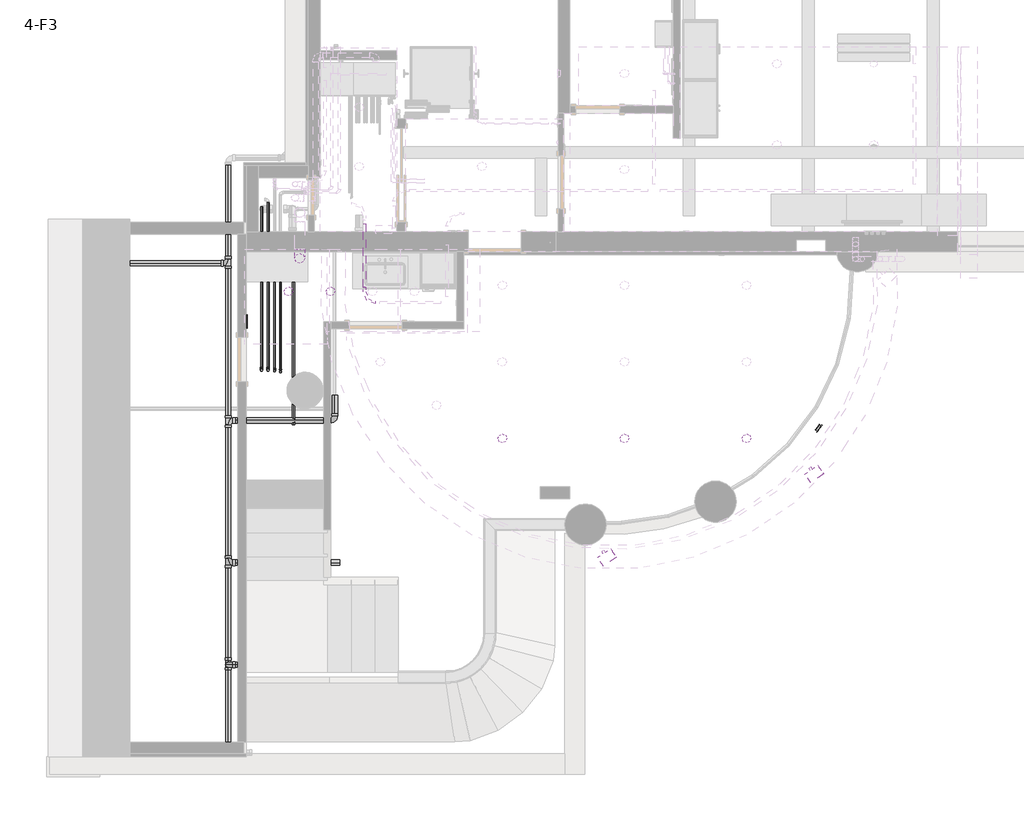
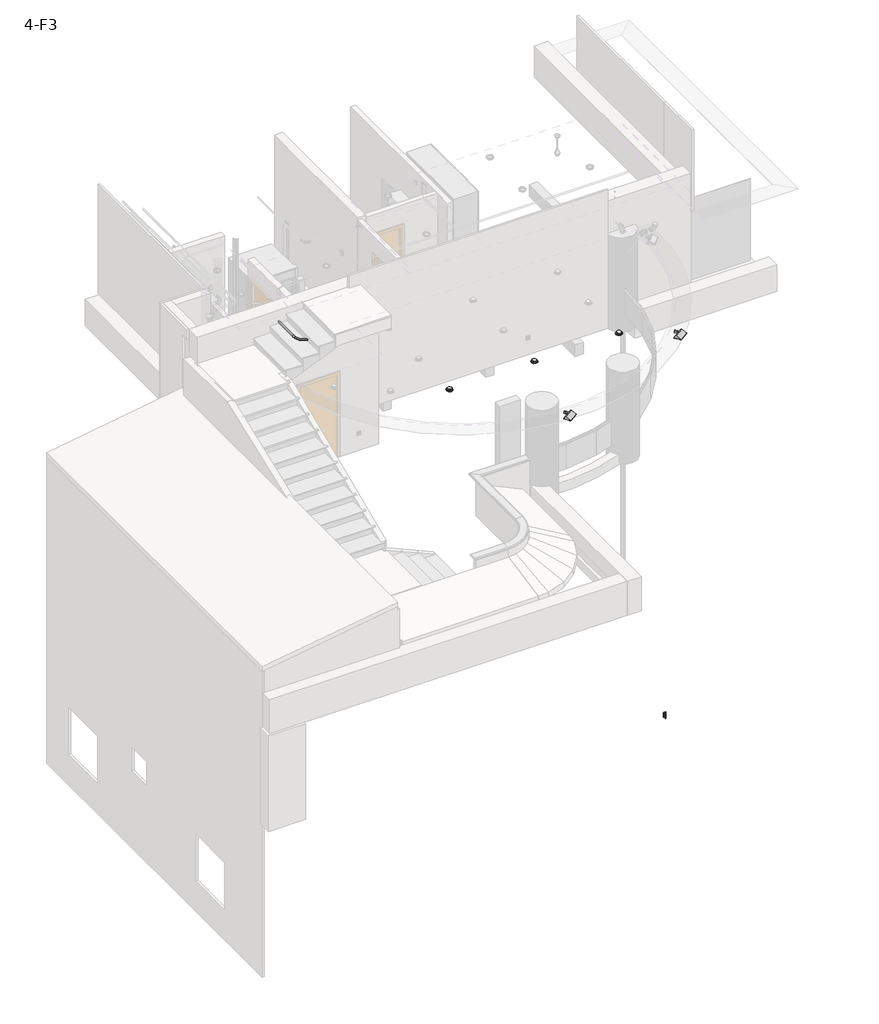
# One storey, part 5 of 11: 26 pipe segments, 17 pipe fittings, 8 light fixtures, 3 proxies, 2 cable carrier segments, 2 switching devices, 1 cable carrier fitting.
"""IFC4 building model written with IfcOpenShell, lengths in millimetres."""

from ifc_helpers import new_model, si_unit, point, frame, frame_2d, origin, place, context, project, spatial, circle_curve, trimmed, segment, composite_curve, outline, extrude, transform, mapped, element, save
from components import wall_mounted_socket_ups_wall_mounted_socket_ups_4524048d, m_conduit_elbow_aluminum_standard_76e275a1, camera_light_down_street_light_9_3c192e06, m_recessed_lamp_round_led_e6f06c98, m_bend_pvc_sch_40_dwv_standard_a4b99d37, m_bend_pvc_sch_40_dwv_standard_b153bf5a, m_bend_pvc_sch_40_dwv_standard_77c676bc, m_bend_pvc_sch_40_dwv_standard_383642ff, m_bend_pvc_sch_40_dwv_standard_be9000f5, m_elbow_welded_generic_standard_9026c7fe, m_tee_reducing_sanitary_pvc_sch_40_dwv_standard_7ce0c8e4, m_tee_reducing_sanitary_pvc_sch_40_dwv_standard_070fdd32, m_tee_sanitary_pvc_sch_40_dwv_standard_0c631b1d, switching_device_ab05ab5c

model = new_model("IFC4")

# Units and contexts
model_context = context("Model", 3, world=origin())
ifc_project = project(units=[si_unit("LENGTHUNIT", "METRE", prefix="MILLI")], contexts=[model_context])

# Site, building, storey
site = spatial("IfcSite", under=ifc_project)
building = spatial("IfcBuilding", under=site)
storey = spatial("IfcBuildingStorey", under=building, Name="4-F3", Elevation=9900.0)

# Proxies
placement = place(None, origin())
wall_mounted_socket_ups_wall_mounted_socket_ups_shape = wall_mounted_socket_ups_wall_mounted_socket_ups_4524048d(model_context)
element("IfcBuildingElementProxy", 1, Name="WALL MOUNTED SOCKET : WALL MOUNTED SOCKET", ObjectType="WALL MOUNTED SOCKET : WALL MOUNTED SOCKET", at=placement, inside=storey, context=model_context, shape_type="MappedRepresentation", body=[
    mapped(wall_mounted_socket_ups_wall_mounted_socket_ups_shape, transform((-6107.4765921, 1676.4863231, 10350.0), x_axis=(0.0, 1.0, 0.0), y_axis=(0.0, 0.0, 1.0), z_axis=(1.0, 0.0, 0.0))),
])
element("IfcBuildingElementProxy", 2, Name="WALL MOUNTED SOCKET : WALL MOUNTED SOCKET", ObjectType="WALL MOUNTED SOCKET : WALL MOUNTED SOCKET", at=placement, inside=storey, context=model_context, shape_type="MappedRepresentation", body=[
    mapped(wall_mounted_socket_ups_wall_mounted_socket_ups_shape, transform((-5467.4765921, 2926.4863231, 10350.0), x_axis=(-1.0, 0.0, 0.0), y_axis=(0.0, 0.0, -1.0), z_axis=(0.0, -1.0, 0.0))),
])
element("IfcBuildingElementProxy", 3, Name="WALL MOUNTED SOCKET : WALL MOUNTED SOCKET", ObjectType="WALL MOUNTED SOCKET : WALL MOUNTED SOCKET", at=placement, inside=storey, context=model_context, shape_type="MappedRepresentation", body=[
    mapped(wall_mounted_socket_ups_wall_mounted_socket_ups_shape, transform((-4680.0, 2926.4863231, 10350.0), x_axis=(-1.0, 0.0, 0.0), y_axis=(0.0, 0.0, -1.0), z_axis=(0.0, -1.0, 0.0))),
])

# Cable carrier fitting
m_conduit_elbow_aluminum_standard_shape = m_conduit_elbow_aluminum_standard_76e275a1(model_context)
element("IfcCableCarrierFitting", 4, ObjectType="M_Conduit Elbow - Aluminum : Standard", at=placement, inside=storey, context=model_context, shape_type="MappedRepresentation", body=[
    mapped(m_conduit_elbow_aluminum_standard_shape, transform((-4107.6765921, 1964.3898607, 12850.825), x_axis=(0.0, -1.0, 0.0), y_axis=(1.0, 0.0, 0.0), z_axis=(0.0, 0.0, 1.0))),
])

# Cable carrier segments
element("IfcCableCarrierSegment", 5, ObjectType="Power", at=placement, inside=storey, context=model_context, shape_type="SweptSolid", body=[
    extrude(outline(composite_curve([segment(trimmed(circle_curve(frame_2d((12850.825, -4107.6765921)), 21.08), [point((12850.825, -4128.7565921))], [point((12829.745, -4107.6765921))], False, "CARTESIAN"), True, "CONTINUOUS"), segment(trimmed(circle_curve(frame_2d((12850.825, -4107.6765921)), 21.08), [point((12829.745, -4107.6765921))], [point((12850.825, -4086.5965921))], False, "CARTESIAN"), True, "CONTINUOUS"), segment(trimmed(circle_curve(frame_2d((12850.825, -4107.6765921)), 21.08), [point((12850.825, -4086.5965921))], [point((12871.905, -4107.6765921))], False, "CARTESIAN"), True, "CONTINUOUS"), segment(trimmed(circle_curve(frame_2d((12850.825, -4107.6765921)), 21.08), [point((12871.905, -4107.6765921))], [point((12850.825, -4128.7565921))], False, "CARTESIAN"), True, "CONTINUOUS")], self_intersect=False)), frame((0.0, 2224.7398607, 0.0), z_axis=(0.0, 1.0, 0.0), x_axis=(0.0, 0.0, 1.0)), (0.0, 0.0, 1.0), 1079.65),
])
element("IfcCableCarrierSegment", 6, ObjectType="Power", at=placement, inside=storey, context=model_context, shape_type="SweptSolid", body=[
    extrude(outline(composite_curve([segment(trimmed(circle_curve(frame_2d((9905.825, -5307.4765921)), 21.08), [point((9905.825, -5286.3965921))], [point((9926.905, -5307.4765921))], False, "CARTESIAN"), True, "CONTINUOUS"), segment(trimmed(circle_curve(frame_2d((9905.825, -5307.4765921)), 21.08), [point((9926.905, -5307.4765921))], [point((9905.825, -5328.5565921))], False, "CARTESIAN"), True, "CONTINUOUS"), segment(trimmed(circle_curve(frame_2d((9905.825, -5307.4765921)), 21.08), [point((9905.825, -5328.5565921))], [point((9884.745, -5307.4765921))], False, "CARTESIAN"), True, "CONTINUOUS"), segment(trimmed(circle_curve(frame_2d((9905.825, -5307.4765921)), 21.08), [point((9884.745, -5307.4765921))], [point((9905.825, -5286.3965921))], False, "CARTESIAN"), True, "CONTINUOUS")], self_intersect=False)), frame((0.0, -105.7439345, 0.0), z_axis=(0.0, 1.0, 0.0), x_axis=(0.0, 0.0, 1.0)), (0.0, 0.0, 1.0), 3480.0),
])

# Light fixtures
camera_light_down_street_light_9_shape = camera_light_down_street_light_9_3c192e06(model_context)
element("IfcLightFixture", 7, ObjectType="Camera light down : Street Light (9)", at=placement, inside=storey, context=model_context, shape_type="MappedRepresentation", body=[
    mapped(camera_light_down_street_light_9_shape, transform((-171.287522, -2090.097149, 12100.0), x_axis=(-0.8333497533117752, -0.5527460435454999, 0.0), y_axis=(0.5527460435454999, -0.8333497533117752, 0.0), z_axis=(0.0, 0.0, 1.0))),
])
element("IfcLightFixture", 8, ObjectType="Camera light down : Street Light (9)", at=placement, inside=storey, context=model_context, shape_type="MappedRepresentation", body=[
    mapped(camera_light_down_street_light_9_shape, transform((3336.7135338, -681.0942528, 12100.0), x_axis=(-0.8235760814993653, -0.5672058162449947, 0.0), y_axis=(0.5672058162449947, -0.8235760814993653, 0.0), z_axis=(0.0, 0.0, 1.0))),
])
m_recessed_lamp_round_led_shape = m_recessed_lamp_round_led_e6f06c98(model_context)
element("IfcLightFixture", 9, ObjectType="M_Recessed Lamp - Round - LED : 100mm Trimless Downlight", at=placement, inside=storey, context=model_context, shape_type="MappedRepresentation", body=[
    mapped(m_recessed_lamp_round_led_shape, transform((-1770.4696246, -335.821086, 12200.0), x_axis=(1.0, 0.0, 0.0), y_axis=(0.0, -1.0, 0.0), z_axis=(0.0, 0.0, -1.0))),
])
element("IfcLightFixture", 10, ObjectType="M_Recessed Lamp - Round - LED : 100mm Trimless Downlight", at=placement, inside=storey, context=model_context, shape_type="MappedRepresentation", body=[
    mapped(m_recessed_lamp_round_led_shape, transform((299.0607507, -335.821086, 12200.0), x_axis=(1.0, 0.0, 0.0), y_axis=(0.0, -1.0, 0.0), z_axis=(0.0, 0.0, -1.0))),
])
element("IfcLightFixture", 11, ObjectType="M_Recessed Lamp - Round - LED : 100mm Trimless Downlight", at=placement, inside=storey, context=model_context, shape_type="MappedRepresentation", body=[
    mapped(m_recessed_lamp_round_led_shape, transform((2368.5911261, -335.821086, 12200.0), x_axis=(1.0, 0.0, 0.0), y_axis=(0.0, -1.0, 0.0), z_axis=(0.0, 0.0, -1.0))),
])
element("IfcLightFixture", 12, ObjectType="M_Recessed Lamp - Round - LED : 100mm Trimless Downlight", at=placement, inside=storey, context=model_context, shape_type="MappedRepresentation", body=[
    mapped(m_recessed_lamp_round_led_shape, transform((-4683.4765921, 2156.4863231, 12200.0), x_axis=(1.0, 0.0, 0.0), y_axis=(0.0, -1.0, 0.0), z_axis=(0.0, 0.0, -1.0))),
])
element("IfcLightFixture", 13, ObjectType="M_Recessed Lamp - Round - LED : 100mm Trimless Downlight", at=placement, inside=storey, context=model_context, shape_type="MappedRepresentation", body=[
    mapped(m_recessed_lamp_round_led_shape, transform((3599.1203103, -165.9457419, 1819.0069493), x_axis=(0.5753051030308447, 0.8179388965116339, 0.0), y_axis=(0.0, 0.0, 1.0), z_axis=(0.8179388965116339, -0.5753051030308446, 0.0))),
])
element("IfcLightFixture", 14, ObjectType="M_Recessed Lamp - Round - LED : 100mm Trimless Downlight", at=placement, inside=storey, context=model_context, shape_type="MappedRepresentation", body=[
    mapped(m_recessed_lamp_round_led_shape, transform((-5395.4765921, 2156.4863231, 12200.0), x_axis=(1.0, 0.0, 0.0), y_axis=(0.0, -1.0, 0.0), z_axis=(0.0, 0.0, -1.0))),
])

# Pipe fittings
m_bend_pvc_sch_40_dwv_standard_shape = m_bend_pvc_sch_40_dwv_standard_a4b99d37(model_context)
element("IfcPipeFitting", 15, ObjectType="M_Bend - PVC - Sch 40 - DWV : Standard", at=placement, inside=storey, context=model_context, shape_type="MappedRepresentation", body=[
    mapped(m_bend_pvc_sch_40_dwv_standard_shape, transform((-6417.4765921, -4173.154085, 10529.2105263), x_axis=(0.0, 0.0, 1.0), y_axis=(1.0, 0.0, 0.0), z_axis=(0.0, 1.0, 0.0))),
])
element("IfcPipeFitting", 16, ObjectType="M_Bend - PVC - Sch 40 - DWV : Standard", at=placement, inside=storey, context=model_context, shape_type="MappedRepresentation", body=[
    mapped(m_bend_pvc_sch_40_dwv_standard_shape, transform((-4608.9689366, -31.5598816, 9903.4220341), x_axis=(1.0, 0.0, 0.0), y_axis=(0.0, 1.0, 0.0), z_axis=(0.0, 0.0, 1.0))),
])
element("IfcPipeFitting", 17, ObjectType="M_Bend - PVC - Sch 40 - DWV : Standard", at=placement, inside=storey, context=model_context, shape_type="MappedRepresentation", body=[
    mapped(m_bend_pvc_sch_40_dwv_standard_shape, transform((-8947.4765921, 2634.4560655, 10920.0), x_axis=(0.0, 0.0, 1.0), y_axis=(-1.0, 0.0, 0.0), z_axis=(0.0, -1.0, 0.0))),
])
m_bend_pvc_sch_40_dwv_standard_2_shape = m_bend_pvc_sch_40_dwv_standard_b153bf5a(model_context)
element("IfcPipeFitting", 18, ObjectType="M_Bend - PVC - Sch 40 - DWV : Standard", at=placement, inside=storey, context=model_context, shape_type="MappedRepresentation", body=[
    mapped(m_bend_pvc_sch_40_dwv_standard_2_shape, transform((-5852.9770075, 821.4863231, 9900.0), x_axis=(0.0, 0.0, -1.0), y_axis=(0.0, 1.0, 0.0), z_axis=(1.0, 0.0, 0.0))),
])
m_bend_pvc_sch_40_dwv_standard_3_shape = m_bend_pvc_sch_40_dwv_standard_77c676bc(model_context)
element("IfcPipeFitting", 19, ObjectType="M_Bend - PVC - Sch 40 - DWV : Standard", at=placement, inside=storey, context=model_context, shape_type="MappedRepresentation", body=[
    mapped(m_bend_pvc_sch_40_dwv_standard_3_shape, transform((-5742.9770105, 821.4863231, 9900.0002411), x_axis=(0.0, 0.0, -1.0), y_axis=(0.0, 1.0, 0.0), z_axis=(1.0, 0.0, 0.0))),
])
m_bend_pvc_sch_40_dwv_standard_4_shape = m_bend_pvc_sch_40_dwv_standard_383642ff(model_context)
element("IfcPipeFitting", 20, ObjectType="M_Bend - PVC - Sch 40 - DWV : Standard", at=placement, inside=storey, context=model_context, shape_type="MappedRepresentation", body=[
    mapped(m_bend_pvc_sch_40_dwv_standard_4_shape, transform((-8947.4766058, 2634.4561792, 9903.4196996), x_axis=(-0.9999999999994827, 0.0, -1.017186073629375e-06), y_axis=(-1.017186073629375e-06, 0.0, 0.9999999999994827), z_axis=(0.0, 1.0, 0.0))),
])
m_bend_pvc_sch_40_dwv_standard_5_shape = m_bend_pvc_sch_40_dwv_standard_be9000f5(model_context)
element("IfcPipeFitting", 21, ObjectType="M_Bend - PVC - Sch 40 - DWV : Standard", at=placement, inside=storey, context=model_context, shape_type="MappedRepresentation", body=[
    mapped(m_bend_pvc_sch_40_dwv_standard_5_shape, transform((-5629.7783216, 810.3143856, 9900.0), x_axis=(0.0, 0.0, -1.0), y_axis=(1.9087096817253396e-06, 0.9999999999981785, 0.0), z_axis=(0.9999999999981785, -1.9087096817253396e-06, 0.0))),
])
element("IfcPipeFitting", 22, ObjectType="M_Bend - PVC - Sch 40 - DWV : Standard", at=placement, inside=storey, context=model_context, shape_type="MappedRepresentation", body=[
    mapped(m_bend_pvc_sch_40_dwv_standard_5_shape, transform((-5532.9770075, 792.8143856, 9900.0), x_axis=(0.0, 0.0, -1.0), y_axis=(0.0, 1.0, 0.0), z_axis=(1.0, 0.0, 0.0))),
])
element("IfcPipeFitting", 23, ObjectType="M_Bend - PVC - Sch 40 - DWV : Standard", at=placement, inside=storey, context=model_context, shape_type="MappedRepresentation", body=[
    mapped(m_bend_pvc_sch_40_dwv_standard_5_shape, transform((-5532.9770075, 2976.4863231, 10450.0), x_axis=(0.0, 0.0, 1.0), y_axis=(1.0, 0.0, 0.0), z_axis=(0.0, 1.0, 0.0))),
])
element("IfcPipeFitting", 24, ObjectType="M_Bend - PVC - Sch 40 - DWV : Standard", at=placement, inside=storey, context=model_context, shape_type="MappedRepresentation", body=[
    mapped(m_bend_pvc_sch_40_dwv_standard_5_shape, transform((-5629.7742548, 2976.4863231, 10550.0), x_axis=(0.0, 0.0, 1.0), y_axis=(1.0, 0.0, 0.0), z_axis=(0.0, 1.0, 0.0))),
])
m_elbow_welded_generic_standard_shape = m_elbow_welded_generic_standard_9026c7fe(model_context)
element("IfcPipeFitting", 25, ObjectType="M_Elbow - Welded - Generic : Standard", at=placement, inside=storey, context=model_context, shape_type="MappedRepresentation", body=[
    mapped(m_elbow_welded_generic_standard_shape, transform((-5205.698775, 2717.3614186, 11985.0), x_axis=(0.0, -1.0, 0.0), y_axis=(0.0, 0.0, -1.0), z_axis=(1.0, 0.0, 0.0))),
])
m_tee_reducing_sanitary_pvc_sch_40_dwv_standard_shape = m_tee_reducing_sanitary_pvc_sch_40_dwv_standard_7ce0c8e4(model_context)
element("IfcPipeFitting", 26, ObjectType="M_Tee Reducing Sanitary - PVC - Sch 40 - DWV : Standard", at=placement, inside=storey, context=model_context, shape_type="MappedRepresentation", body=[
    mapped(m_tee_reducing_sanitary_pvc_sch_40_dwv_standard_shape, transform((-6417.4765921, 2634.4561792, 9903.422152), x_axis=(0.0, -0.9999999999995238, -9.75931257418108e-07), y_axis=(1.0, 0.0, 0.0), z_axis=(0.0, -9.75931257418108e-07, 0.9999999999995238))),
])
m_tee_reducing_sanitary_pvc_sch_40_dwv_standard_2_shape = m_tee_reducing_sanitary_pvc_sch_40_dwv_standard_070fdd32(model_context)
element("IfcPipeFitting", 27, ObjectType="M_Tee Reducing Sanitary - PVC - Sch 40 - DWV : Standard", at=placement, inside=storey, context=model_context, shape_type="MappedRepresentation", body=[
    mapped(m_tee_reducing_sanitary_pvc_sch_40_dwv_standard_2_shape, transform((-5532.9770075, 2976.4863231, 9900.0), x_axis=(0.0, 1.0, 0.0), y_axis=(0.0, 0.0, -1.0), z_axis=(-1.0, 0.0, 0.0))),
])
element("IfcPipeFitting", 28, ObjectType="M_Tee Reducing Sanitary - PVC - Sch 40 - DWV : Standard", at=placement, inside=storey, context=model_context, shape_type="MappedRepresentation", body=[
    mapped(m_tee_reducing_sanitary_pvc_sch_40_dwv_standard_2_shape, transform((-5629.7742548, 2976.4863231, 9900.0), x_axis=(1.8766311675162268e-06, 0.9999999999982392, 0.0), y_axis=(0.0, 0.0, -1.0000000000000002), z_axis=(-0.9999999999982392, 1.8766311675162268e-06, 0.0))),
])
m_tee_sanitary_pvc_sch_40_dwv_standard_shape = m_tee_sanitary_pvc_sch_40_dwv_standard_0c631b1d(model_context)
element("IfcPipeFitting", 29, ObjectType="M_Tee Sanitary - PVC - Sch 40 - DWV : Standard", at=placement, inside=storey, context=model_context, shape_type="MappedRepresentation", body=[
    mapped(m_tee_sanitary_pvc_sch_40_dwv_standard_shape, transform((-6417.4765921, -4173.1539713, 9903.4220341), x_axis=(0.0, -1.0, 0.0), y_axis=(0.0, 0.0, -1.0), z_axis=(1.0, 0.0, 0.0))),
])
element("IfcPipeFitting", 30, ObjectType="M_Tee Sanitary - PVC - Sch 40 - DWV : Standard", at=placement, inside=storey, context=model_context, shape_type="MappedRepresentation", body=[
    mapped(m_tee_sanitary_pvc_sch_40_dwv_standard_shape, transform((-6417.4765921, -2440.0667114, 9903.4220341), x_axis=(0.0, -1.0, 0.0), y_axis=(-1.0, 0.0, 0.0), z_axis=(0.0, 0.0, -1.0))),
])
element("IfcPipeFitting", 31, ObjectType="M_Tee Sanitary - PVC - Sch 40 - DWV : Standard", at=placement, inside=storey, context=model_context, shape_type="MappedRepresentation", body=[
    mapped(m_tee_sanitary_pvc_sch_40_dwv_standard_shape, transform((-6417.4765921, -31.5598816, 9903.4220341), x_axis=(0.0, 1.0, 0.0), y_axis=(-1.0, 0.0, 0.0), z_axis=(0.0, 0.0, 1.0))),
])

# Pipe segments
element("IfcPipeSegment", 32, ObjectType="PVC - DWV", at=placement, inside=storey, context=model_context, shape_type="SweptSolid", body=[
    extrude(outline(composite_curve([segment(trimmed(circle_curve(frame_2d((-5205.698775, 2717.3614186)), 84.1375), [point((-5121.561275, 2717.3614186))], [point((-5205.698775, 2633.2239186))], False, "CARTESIAN"), True, "CONTINUOUS"), segment(trimmed(circle_curve(frame_2d((-5205.698775, 2717.3614186)), 84.1375), [point((-5205.698775, 2633.2239186))], [point((-5289.836275, 2717.3614186))], False, "CARTESIAN"), True, "CONTINUOUS"), segment(trimmed(circle_curve(frame_2d((-5205.698775, 2717.3614186)), 84.1375), [point((-5289.836275, 2717.3614186))], [point((-5205.698775, 2801.4989186))], False, "CARTESIAN"), True, "CONTINUOUS"), segment(trimmed(circle_curve(frame_2d((-5205.698775, 2717.3614186)), 84.1375), [point((-5205.698775, 2801.4989186))], [point((-5121.561275, 2717.3614186))], False, "CARTESIAN"), True, "CONTINUOUS")], self_intersect=False)), frame((0.0, 0.0, 11625.2), z_axis=(0.0, 0.0, 1.0), x_axis=(1.0, 0.0, 0.0)), (0.0, 0.0, 1.0), 207.8),
])
element("IfcPipeSegment", 33, ObjectType="PVC - DWV", at=placement, inside=storey, context=model_context, shape_type="SweptSolid", body=[
    extrude(outline(composite_curve([segment(trimmed(circle_curve(frame_2d((-4173.154085, 10529.2105263)), 44.45), [point((-4128.704085, 10529.2105263))], [point((-4173.154085, 10484.7605263))], False, "CARTESIAN"), True, "CONTINUOUS"), segment(trimmed(circle_curve(frame_2d((-4173.154085, 10529.2105263)), 44.45), [point((-4173.154085, 10484.7605263))], [point((-4217.604085, 10529.2105263))], False, "CARTESIAN"), True, "CONTINUOUS"), segment(trimmed(circle_curve(frame_2d((-4173.154085, 10529.2105263)), 44.45), [point((-4217.604085, 10529.2105263))], [point((-4173.154085, 10573.6605263))], False, "CARTESIAN"), True, "CONTINUOUS"), segment(trimmed(circle_curve(frame_2d((-4173.154085, 10529.2105263)), 44.45), [point((-4173.154085, 10573.6605263))], [point((-4128.704085, 10529.2105263))], False, "CARTESIAN"), True, "CONTINUOUS")], self_intersect=False)), frame((-6301.5763921, 0.0, 0.0), z_axis=(1.0, 0.0, 0.0), x_axis=(0.0, 1.0, 0.0)), (0.0, 0.0, 1.0), 323.7238949),
])
element("IfcPipeSegment", 34, ObjectType="PVC - DWV", at=placement, inside=storey, context=model_context, shape_type="SweptSolid", body=[
    extrude(outline(composite_curve([segment(trimmed(circle_curve(frame_2d((0.0, 44.45)), 44.45), [point((-44.45, 44.45))], [point((0.0, 88.9))], False, "CARTESIAN"), True, "CONTINUOUS"), segment(trimmed(circle_curve(frame_2d((0.0, 44.45)), 44.45), [point((0.0, 88.9))], [point((44.45, 44.45))], False, "CARTESIAN"), True, "CONTINUOUS"), segment(trimmed(circle_curve(frame_2d((0.0, 44.45)), 44.45), [point((44.45, 44.45))], [point((0.0, 0.0))], False, "CARTESIAN"), True, "CONTINUOUS"), segment(trimmed(circle_curve(frame_2d((0.0, 44.45)), 44.45), [point((0.0, 0.0))], [point((-44.45, 44.45))], False, "CARTESIAN"), True, "CONTINUOUS")], self_intersect=False)), frame((-6417.4765921, -4217.6039713, 10019.3222212), z_axis=(0.0, -2.8877035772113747e-07, 0.9999999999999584), x_axis=(1.0, 0.0, 0.0)), (0.0, 0.0, 1.0), 393.9880922),
])
element("IfcPipeSegment", 35, ObjectType="PVC - DWV", at=placement, inside=storey, context=model_context, shape_type="SweptSolid", body=[
    extrude(outline(composite_curve([segment(trimmed(circle_curve(frame_2d((9903.4220341, -6417.4765921)), 44.45), [point((9903.4220341, -6373.0265921))], [point((9947.8720341, -6417.4765921))], False, "CARTESIAN"), True, "CONTINUOUS"), segment(trimmed(circle_curve(frame_2d((9903.4220341, -6417.4765921)), 44.45), [point((9947.8720341, -6417.4765921))], [point((9903.4220341, -6461.9265921))], False, "CARTESIAN"), True, "CONTINUOUS"), segment(trimmed(circle_curve(frame_2d((9903.4220341, -6417.4765921)), 44.45), [point((9903.4220341, -6461.9265921))], [point((9858.9720341, -6417.4765921))], False, "CARTESIAN"), True, "CONTINUOUS"), segment(trimmed(circle_curve(frame_2d((9903.4220341, -6417.4765921)), 44.45), [point((9858.9720341, -6417.4765921))], [point((9903.4220341, -6373.0265921))], False, "CARTESIAN"), True, "CONTINUOUS")], self_intersect=False)), frame((0.0, -5545.6596816, 0.0), z_axis=(0.0, 1.0, 0.0), x_axis=(0.0, 0.0, 1.0)), (0.0, 0.0, 1.0), 1288.3809104),
])
element("IfcPipeSegment", 36, ObjectType="PVC - DWV", at=placement, inside=storey, context=model_context, shape_type="SweptSolid", body=[
    extrude(outline(composite_curve([segment(trimmed(circle_curve(frame_2d((-2440.0667114, 9903.4220341)), 44.45), [point((-2395.6167114, 9903.4220341))], [point((-2440.0667114, 9858.9720341))], False, "CARTESIAN"), True, "CONTINUOUS"), segment(trimmed(circle_curve(frame_2d((-2440.0667114, 9903.4220341)), 44.45), [point((-2440.0667114, 9858.9720341))], [point((-2484.5167114, 9903.4220341))], False, "CARTESIAN"), True, "CONTINUOUS"), segment(trimmed(circle_curve(frame_2d((-2440.0667114, 9903.4220341)), 44.45), [point((-2484.5167114, 9903.4220341))], [point((-2440.0667114, 9947.8720341))], False, "CARTESIAN"), True, "CONTINUOUS"), segment(trimmed(circle_curve(frame_2d((-2440.0667114, 9903.4220341)), 44.45), [point((-2440.0667114, 9947.8720341))], [point((-2395.6167114, 9903.4220341))], False, "CARTESIAN"), True, "CONTINUOUS")], self_intersect=False)), frame((-6301.5763921, 0.0, 0.0), z_axis=(1.0, 0.0, 0.0), x_axis=(0.0, 1.0, 0.0)), (0.0, 0.0, 1.0), 1773.7989374),
])
element("IfcPipeSegment", 37, ObjectType="PVC - DWV", at=placement, inside=storey, context=model_context, shape_type="SweptSolid", body=[
    extrude(outline(composite_curve([segment(trimmed(circle_curve(frame_2d((9903.4220341, -6417.4765921)), 44.45), [point((9903.4220341, -6373.0265921))], [point((9947.8720341, -6417.4765921))], False, "CARTESIAN"), True, "CONTINUOUS"), segment(trimmed(circle_curve(frame_2d((9903.4220341, -6417.4765921)), 44.45), [point((9947.8720341, -6417.4765921))], [point((9903.4220341, -6461.9265921))], False, "CARTESIAN"), True, "CONTINUOUS"), segment(trimmed(circle_curve(frame_2d((9903.4220341, -6417.4765921)), 44.45), [point((9903.4220341, -6461.9265921))], [point((9858.9720341, -6417.4765921))], False, "CARTESIAN"), True, "CONTINUOUS"), segment(trimmed(circle_curve(frame_2d((9903.4220341, -6417.4765921)), 44.45), [point((9858.9720341, -6417.4765921))], [point((9903.4220341, -6373.0265921))], False, "CARTESIAN"), True, "CONTINUOUS")], self_intersect=False)), frame((0.0, -2324.1665114, 0.0), z_axis=(0.0, 1.0, 0.0), x_axis=(0.0, 0.0, 1.0)), (0.0, 0.0, 1.0), 2176.7064298),
])
element("IfcPipeSegment", 38, ObjectType="PVC - DWV", at=placement, inside=storey, context=model_context, shape_type="SweptSolid", body=[
    extrude(outline(composite_curve([segment(trimmed(circle_curve(frame_2d((9903.4220341, -6417.4765921)), 44.45), [point((9903.4220341, -6373.0265921))], [point((9947.8720341, -6417.4765921))], False, "CARTESIAN"), True, "CONTINUOUS"), segment(trimmed(circle_curve(frame_2d((9903.4220341, -6417.4765921)), 44.45), [point((9947.8720341, -6417.4765921))], [point((9903.4220341, -6461.9265921))], False, "CARTESIAN"), True, "CONTINUOUS"), segment(trimmed(circle_curve(frame_2d((9903.4220341, -6417.4765921)), 44.45), [point((9903.4220341, -6461.9265921))], [point((9858.9720341, -6417.4765921))], False, "CARTESIAN"), True, "CONTINUOUS"), segment(trimmed(circle_curve(frame_2d((9903.4220341, -6417.4765921)), 44.45), [point((9858.9720341, -6417.4765921))], [point((9903.4220341, -6373.0265921))], False, "CARTESIAN"), True, "CONTINUOUS")], self_intersect=False)), frame((0.0, -4057.2537713, 0.0), z_axis=(0.0, 1.0, 0.0), x_axis=(0.0, 0.0, 1.0)), (0.0, 0.0, 1.0), 1533.0622599),
])
element("IfcPipeSegment", 39, ObjectType="PVC - DWV", at=placement, inside=storey, context=model_context, shape_type="SweptSolid", body=[
    extrude(outline(composite_curve([segment(trimmed(circle_curve(frame_2d((-31.5598816, 9903.4220341)), 44.45), [point((-76.0098816, 9903.4220341))], [point((-31.5598816, 9947.8720341))], False, "CARTESIAN"), True, "CONTINUOUS"), segment(trimmed(circle_curve(frame_2d((-31.5598816, 9903.4220341)), 44.45), [point((-31.5598816, 9947.8720341))], [point((12.8901184, 9903.4220341))], False, "CARTESIAN"), True, "CONTINUOUS"), segment(trimmed(circle_curve(frame_2d((-31.5598816, 9903.4220341)), 44.45), [point((12.8901184, 9903.4220341))], [point((-31.5598816, 9858.9720341))], False, "CARTESIAN"), True, "CONTINUOUS"), segment(trimmed(circle_curve(frame_2d((-31.5598816, 9903.4220341)), 44.45), [point((-31.5598816, 9858.9720341))], [point((-76.0098816, 9903.4220341))], False, "CARTESIAN"), True, "CONTINUOUS")], self_intersect=False)), frame((-6301.5763921, 0.0, 0.0), z_axis=(1.0, 0.0, 0.0), x_axis=(0.0, 1.0, 0.0)), (0.0, 0.0, 1.0), 1576.7072555),
])
element("IfcPipeSegment", 40, ObjectType="PVC - DWV", at=placement, inside=storey, context=model_context, shape_type="SweptSolid", body=[
    extrude(outline(composite_curve([segment(trimmed(circle_curve(frame_2d((9903.4220341, -4608.9689366)), 44.45), [point((9903.4220341, -4653.4189366))], [point((9858.9720341, -4608.9689366))], False, "CARTESIAN"), True, "CONTINUOUS"), segment(trimmed(circle_curve(frame_2d((9903.4220341, -4608.9689366)), 44.45), [point((9858.9720341, -4608.9689366))], [point((9903.4220341, -4564.5189366))], False, "CARTESIAN"), True, "CONTINUOUS"), segment(trimmed(circle_curve(frame_2d((9903.4220341, -4608.9689366)), 44.45), [point((9903.4220341, -4564.5189366))], [point((9947.8720341, -4608.9689366))], False, "CARTESIAN"), True, "CONTINUOUS"), segment(trimmed(circle_curve(frame_2d((9903.4220341, -4608.9689366)), 44.45), [point((9947.8720341, -4608.9689366))], [point((9903.4220341, -4653.4189366))], False, "CARTESIAN"), True, "CONTINUOUS")], self_intersect=False)), frame((0.0, 84.3403184, 0.0), z_axis=(0.0, 1.0, 0.0), x_axis=(0.0, 0.0, 1.0)), (0.0, 0.0, 1.0), 312.0896328),
])
element("IfcPipeSegment", 41, ObjectType="PVC - DWV", at=placement, inside=storey, context=model_context, shape_type="SweptSolid", body=[
    extrude(outline(composite_curve([segment(trimmed(circle_curve(frame_2d((9903.4222657, -6417.4765921)), 44.45), [point((9903.4222657, -6373.0265921))], [point((9947.8722657, -6417.4765921))], False, "CARTESIAN"), True, "CONTINUOUS"), segment(trimmed(circle_curve(frame_2d((9903.4222657, -6417.4765921)), 44.45), [point((9947.8722657, -6417.4765921))], [point((9903.4222657, -6461.9265921))], False, "CARTESIAN"), True, "CONTINUOUS"), segment(trimmed(circle_curve(frame_2d((9903.4222657, -6417.4765921)), 44.45), [point((9903.4222657, -6461.9265921))], [point((9858.9722657, -6417.4765921))], False, "CARTESIAN"), True, "CONTINUOUS"), segment(trimmed(circle_curve(frame_2d((9903.4222657, -6417.4765921)), 44.45), [point((9858.9722657, -6417.4765921))], [point((9903.4222657, -6373.0265921))], False, "CARTESIAN"), True, "CONTINUOUS")], self_intersect=False)), frame((0.0, 2751.0348855, 0.0), z_axis=(0.0, 1.0, 0.0), x_axis=(0.0, 0.0, 1.0)), (0.0, 0.0, 1.0), 1555.2419895),
])
element("IfcPipeSegment", 42, ObjectType="PVC - DWV", at=placement, inside=storey, context=model_context, shape_type="SweptSolid", body=[
    extrude(outline(composite_curve([segment(trimmed(circle_curve(frame_2d((2976.4863231, 10450.0)), 13.335), [point((2989.8213231, 10450.0))], [point((2976.4863231, 10436.665))], False, "CARTESIAN"), True, "CONTINUOUS"), segment(trimmed(circle_curve(frame_2d((2976.4863231, 10450.0)), 13.335), [point((2976.4863231, 10436.665))], [point((2963.1513231, 10450.0))], False, "CARTESIAN"), True, "CONTINUOUS"), segment(trimmed(circle_curve(frame_2d((2976.4863231, 10450.0)), 13.335), [point((2963.1513231, 10450.0))], [point((2976.4863231, 10463.335))], False, "CARTESIAN"), True, "CONTINUOUS"), segment(trimmed(circle_curve(frame_2d((2976.4863231, 10450.0)), 13.335), [point((2976.4863231, 10463.335))], [point((2989.8213231, 10450.0))], False, "CARTESIAN"), True, "CONTINUOUS")], self_intersect=False)), frame((-5486.162945, 0.0, 0.0), z_axis=(1.0, 0.0, 0.0), x_axis=(0.0, 1.0, 0.0)), (0.0, 0.0, 1.0), 1606.371875),
])
element("IfcPipeSegment", 43, ObjectType="PVC - DWV", at=placement, inside=storey, context=model_context, shape_type="SweptSolid", body=[
    extrude(outline(composite_curve([segment(trimmed(circle_curve(frame_2d((0.0, -13.335)), 13.335), [point((0.0, 0.0))], [point((13.335, -13.335))], False, "CARTESIAN"), True, "CONTINUOUS"), segment(trimmed(circle_curve(frame_2d((0.0, -13.335)), 13.335), [point((13.335, -13.335))], [point((0.0, -26.67))], False, "CARTESIAN"), True, "CONTINUOUS"), segment(trimmed(circle_curve(frame_2d((0.0, -13.335)), 13.335), [point((0.0, -26.67))], [point((-13.335, -13.335))], False, "CARTESIAN"), True, "CONTINUOUS"), segment(trimmed(circle_curve(frame_2d((0.0, -13.335)), 13.335), [point((-13.335, -13.335))], [point((0.0, 0.0))], False, "CARTESIAN"), True, "CONTINUOUS")], self_intersect=False)), frame((-5643.1132323, 857.1284731, 9900.0), z_axis=(1.876720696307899e-06, 0.999999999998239, 0.0), x_axis=(0.0, 0.0, -1.0)), (0.0, 0.0, 1.0), 2078.2071563),
])
element("IfcPipeSegment", 44, ObjectType="PVC - DWV", at=placement, inside=storey, context=model_context, shape_type="SweptSolid", body=[
    extrude(outline(composite_curve([segment(trimmed(circle_curve(frame_2d((9900.0, -5852.9770075)), 16.7005), [point((9900.0, -5869.6775075))], [point((9883.2995, -5852.9770075))], False, "CARTESIAN"), True, "CONTINUOUS"), segment(trimmed(circle_curve(frame_2d((9900.0, -5852.9770075)), 16.7005), [point((9883.2995, -5852.9770075))], [point((9900.0, -5836.2765075))], False, "CARTESIAN"), True, "CONTINUOUS"), segment(trimmed(circle_curve(frame_2d((9900.0, -5852.9770075)), 16.7005), [point((9900.0, -5836.2765075))], [point((9916.7005, -5852.9770075))], False, "CARTESIAN"), True, "CONTINUOUS"), segment(trimmed(circle_curve(frame_2d((9900.0, -5852.9770075)), 16.7005), [point((9916.7005, -5852.9770075))], [point((9900.0, -5869.6775075))], False, "CARTESIAN"), True, "CONTINUOUS")], self_intersect=False)), frame((0.0, 874.1003856, 0.0), z_axis=(0.0, 1.0, 0.0), x_axis=(0.0, 0.0, 1.0)), (0.0, 0.0, 1.0), 2716.5339972),
])
element("IfcPipeSegment", 45, ObjectType="PVC - DWV", at=placement, inside=storey, context=model_context, shape_type="SweptSolid", body=[
    extrude(outline(composite_curve([segment(trimmed(circle_curve(frame_2d((0.0, -16.7004999)), 16.7004999), [point((0.0, 0.0))], [point((16.7005, -16.7005))], False, "CARTESIAN"), True, "CONTINUOUS"), segment(trimmed(circle_curve(frame_2d((0.0, -16.7004999)), 16.7005), [point((16.7005, -16.7005))], [point((0.0, -33.401))], False, "CARTESIAN"), True, "CONTINUOUS"), segment(trimmed(circle_curve(frame_2d((0.0, -16.7004999)), 16.7005001), [point((0.0, -33.401))], [point((-16.7005, -16.7005))], False, "CARTESIAN"), True, "CONTINUOUS"), segment(trimmed(circle_curve(frame_2d((0.0, -16.7004999)), 16.7005), [point((-16.7005, -16.7005))], [point((0.0, 0.0))], False, "CARTESIAN"), True, "CONTINUOUS")], self_intersect=False)), frame((-5759.6775105, 874.1003856, 9900.0000057), z_axis=(-2.1518908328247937e-11, 1.0, 0.0), x_axis=(0.0, 0.0, -1.0)), (0.0, 0.0, 1.0), 2790.1540121),
])
element("IfcPipeSegment", 46, ObjectType="PVC - DWV", at=placement, inside=storey, context=model_context, shape_type="SweptSolid", body=[
    extrude(outline(composite_curve([segment(trimmed(circle_curve(frame_2d((9900.0, -5532.9770075)), 13.335), [point((9900.0, -5546.3120075))], [point((9886.665, -5532.9770075))], False, "CARTESIAN"), True, "CONTINUOUS"), segment(trimmed(circle_curve(frame_2d((9900.0, -5532.9770075)), 13.335), [point((9886.665, -5532.9770075))], [point((9900.0, -5519.6420075))], False, "CARTESIAN"), True, "CONTINUOUS"), segment(trimmed(circle_curve(frame_2d((9900.0, -5532.9770075)), 13.335), [point((9900.0, -5519.6420075))], [point((9913.335, -5532.9770075))], False, "CARTESIAN"), True, "CONTINUOUS"), segment(trimmed(circle_curve(frame_2d((9900.0, -5532.9770075)), 13.335), [point((9913.335, -5532.9770075))], [point((9900.0, -5546.3120075))], False, "CARTESIAN"), True, "CONTINUOUS")], self_intersect=False)), frame((0.0, 839.6284481, 0.0), z_axis=(0.0, 1.0, 0.0), x_axis=(0.0, 0.0, 1.0)), (0.0, 0.0, 1.0), 2095.7071563),
])
element("IfcPipeSegment", 47, ObjectType="PVC - DWV", at=placement, inside=storey, context=model_context, shape_type="SweptSolid", body=[
    extrude(outline(composite_curve([segment(trimmed(circle_curve(frame_2d((2976.4863231, 10550.0)), 13.335), [point((2989.8213231, 10550.0))], [point((2976.4863231, 10536.665))], False, "CARTESIAN"), True, "CONTINUOUS"), segment(trimmed(circle_curve(frame_2d((2976.4863231, 10550.0)), 13.335), [point((2976.4863231, 10536.665))], [point((2963.1513231, 10550.0))], False, "CARTESIAN"), True, "CONTINUOUS"), segment(trimmed(circle_curve(frame_2d((2976.4863231, 10550.0)), 13.335), [point((2963.1513231, 10550.0))], [point((2976.4863231, 10563.335))], False, "CARTESIAN"), True, "CONTINUOUS"), segment(trimmed(circle_curve(frame_2d((2976.4863231, 10550.0)), 13.335), [point((2976.4863231, 10563.335))], [point((2989.8213231, 10550.0))], False, "CARTESIAN"), True, "CONTINUOUS")], self_intersect=False)), frame((-5582.9601923, 0.0, 0.0), z_axis=(1.0, 0.0, 0.0), x_axis=(0.0, 1.0, 0.0)), (0.0, 0.0, 1.0), 1853.6695377),
])
element("IfcPipeSegment", 48, ObjectType="PVC - DWV", at=placement, inside=storey, context=model_context, shape_type="SweptSolid", body=[
    extrude(outline(composite_curve([segment(trimmed(circle_curve(frame_2d((-5742.9770105, 821.4863231)), 16.7005), [point((-5726.2765105, 821.4863231))], [point((-5742.9770105, 804.7858231))], False, "CARTESIAN"), True, "CONTINUOUS"), segment(trimmed(circle_curve(frame_2d((-5742.9770105, 821.4863231)), 16.7005), [point((-5742.9770105, 804.7858231))], [point((-5759.6775105, 821.4863231))], False, "CARTESIAN"), True, "CONTINUOUS"), segment(trimmed(circle_curve(frame_2d((-5742.9770105, 821.4863231)), 16.7005), [point((-5759.6775105, 821.4863231))], [point((-5742.9770105, 838.1868231))], False, "CARTESIAN"), True, "CONTINUOUS"), segment(trimmed(circle_curve(frame_2d((-5742.9770105, 821.4863231)), 16.7005), [point((-5742.9770105, 838.1868231))], [point((-5726.2765105, 821.4863231))], False, "CARTESIAN"), True, "CONTINUOUS")], self_intersect=False)), frame((0.0, 0.0, 9952.6143036), z_axis=(0.0, 0.0, 1.0), x_axis=(1.0, 0.0, 0.0)), (0.0, 0.0, 1.0), 147.3856964),
])
element("IfcPipeSegment", 49, ObjectType="PVC - DWV", at=placement, inside=storey, context=model_context, shape_type="SweptSolid", body=[
    extrude(outline(composite_curve([segment(trimmed(circle_curve(frame_2d((-5852.9770075, 821.4863231)), 16.7005), [point((-5869.6775075, 821.4863231))], [point((-5852.9770075, 838.1868231))], False, "CARTESIAN"), True, "CONTINUOUS"), segment(trimmed(circle_curve(frame_2d((-5852.9770075, 821.4863231)), 16.7005), [point((-5852.9770075, 838.1868231))], [point((-5836.2765075, 821.4863231))], False, "CARTESIAN"), True, "CONTINUOUS"), segment(trimmed(circle_curve(frame_2d((-5852.9770075, 821.4863231)), 16.7005), [point((-5836.2765075, 821.4863231))], [point((-5852.9770075, 804.7858231))], False, "CARTESIAN"), True, "CONTINUOUS"), segment(trimmed(circle_curve(frame_2d((-5852.9770075, 821.4863231)), 16.7005), [point((-5852.9770075, 804.7858231))], [point((-5869.6775075, 821.4863231))], False, "CARTESIAN"), True, "CONTINUOUS")], self_intersect=False)), frame((0.0, 0.0, 9952.6140625), z_axis=(0.0, 0.0, 1.0), x_axis=(1.0, 0.0, 0.0)), (0.0, 0.0, 1.0), 147.3859375),
])
element("IfcPipeSegment", 50, ObjectType="PVC - DWV", at=placement, inside=storey, context=model_context, shape_type="SweptSolid", body=[
    extrude(outline(composite_curve([segment(trimmed(circle_curve(frame_2d((-5629.7783216, 810.3143856)), 13.335), [point((-5616.4433216, 810.3143856))], [point((-5629.7783216, 796.9793856))], False, "CARTESIAN"), True, "CONTINUOUS"), segment(trimmed(circle_curve(frame_2d((-5629.7783216, 810.3143856)), 13.335), [point((-5629.7783216, 796.9793856))], [point((-5643.1133216, 810.3143856))], False, "CARTESIAN"), True, "CONTINUOUS"), segment(trimmed(circle_curve(frame_2d((-5629.7783216, 810.3143856)), 13.335), [point((-5643.1133216, 810.3143856))], [point((-5629.7783216, 823.6493856))], False, "CARTESIAN"), True, "CONTINUOUS"), segment(trimmed(circle_curve(frame_2d((-5629.7783216, 810.3143856)), 13.335), [point((-5629.7783216, 823.6493856))], [point((-5616.4433216, 810.3143856))], False, "CARTESIAN"), True, "CONTINUOUS")], self_intersect=False)), frame((0.0, 0.0, 9946.8140625), z_axis=(0.0, 0.0, 1.0), x_axis=(1.0, 0.0, 0.0)), (0.0, 0.0, 1.0), 153.1859375),
])
element("IfcPipeSegment", 51, ObjectType="PVC - DWV", at=placement, inside=storey, context=model_context, shape_type="SweptSolid", body=[
    extrude(outline(composite_curve([segment(trimmed(circle_curve(frame_2d((-5532.9770075, 792.8143856)), 13.335), [point((-5519.6420075, 792.8143856))], [point((-5532.9770075, 779.4793856))], False, "CARTESIAN"), True, "CONTINUOUS"), segment(trimmed(circle_curve(frame_2d((-5532.9770075, 792.8143856)), 13.335), [point((-5532.9770075, 779.4793856))], [point((-5546.3120075, 792.8143856))], False, "CARTESIAN"), True, "CONTINUOUS"), segment(trimmed(circle_curve(frame_2d((-5532.9770075, 792.8143856)), 13.335), [point((-5546.3120075, 792.8143856))], [point((-5532.9770075, 806.1493856))], False, "CARTESIAN"), True, "CONTINUOUS"), segment(trimmed(circle_curve(frame_2d((-5532.9770075, 792.8143856)), 13.335), [point((-5532.9770075, 806.1493856))], [point((-5519.6420075, 792.8143856))], False, "CARTESIAN"), True, "CONTINUOUS")], self_intersect=False)), frame((0.0, 0.0, 9946.8140625), z_axis=(0.0, 0.0, 1.0), x_axis=(1.0, 0.0, 0.0)), (0.0, 0.0, 1.0), 153.1859375),
])
element("IfcPipeSegment", 52, ObjectType="PVC - DWV", at=placement, inside=storey, context=model_context, shape_type="SweptSolid", body=[
    extrude(outline(composite_curve([segment(trimmed(circle_curve(frame_2d((-5532.9770075, 2976.4863231)), 13.335), [point((-5546.3120075, 2976.4863231))], [point((-5532.9770075, 2989.8213231))], False, "CARTESIAN"), True, "CONTINUOUS"), segment(trimmed(circle_curve(frame_2d((-5532.9770075, 2976.4863231)), 13.335), [point((-5532.9770075, 2989.8213231))], [point((-5519.6420075, 2976.4863231))], False, "CARTESIAN"), True, "CONTINUOUS"), segment(trimmed(circle_curve(frame_2d((-5532.9770075, 2976.4863231)), 13.335), [point((-5519.6420075, 2976.4863231))], [point((-5532.9770075, 2963.1513231))], False, "CARTESIAN"), True, "CONTINUOUS"), segment(trimmed(circle_curve(frame_2d((-5532.9770075, 2976.4863231)), 13.335), [point((-5532.9770075, 2963.1513231))], [point((-5546.3120075, 2976.4863231))], False, "CARTESIAN"), True, "CONTINUOUS")], self_intersect=False)), frame((0.0, 0.0, 9945.0179687), z_axis=(0.0, 0.0, 1.0), x_axis=(1.0, 0.0, 0.0)), (0.0, 0.0, 1.0), 458.1679688),
])
element("IfcPipeSegment", 53, ObjectType="PVC - DWV", at=placement, inside=storey, context=model_context, shape_type="SweptSolid", body=[
    extrude(outline(composite_curve([segment(trimmed(circle_curve(frame_2d((-5629.7742548, 2976.4863231)), 13.335), [point((-5643.1092548, 2976.4863231))], [point((-5629.7742548, 2989.8213231))], False, "CARTESIAN"), True, "CONTINUOUS"), segment(trimmed(circle_curve(frame_2d((-5629.7742548, 2976.4863231)), 13.335), [point((-5629.7742548, 2989.8213231))], [point((-5616.4392548, 2976.4863231))], False, "CARTESIAN"), True, "CONTINUOUS"), segment(trimmed(circle_curve(frame_2d((-5629.7742548, 2976.4863231)), 13.335), [point((-5616.4392548, 2976.4863231))], [point((-5629.7742548, 2963.1513231))], False, "CARTESIAN"), True, "CONTINUOUS"), segment(trimmed(circle_curve(frame_2d((-5629.7742548, 2976.4863231)), 13.335), [point((-5629.7742548, 2963.1513231))], [point((-5643.1092548, 2976.4863231))], False, "CARTESIAN"), True, "CONTINUOUS")], self_intersect=False)), frame((0.0, 0.0, 9945.0179687), z_axis=(0.0, 0.0, 1.0), x_axis=(1.0, 0.0, 0.0)), (0.0, 0.0, 1.0), 558.1679688),
])
element("IfcPipeSegment", 54, ObjectType="PVC - DWV", at=placement, inside=storey, context=model_context, shape_type="SweptSolid", body=[
    extrude(outline(composite_curve([segment(trimmed(circle_curve(frame_2d((2634.4561792, 9903.422152)), 44.45), [point((2678.9061792, 9903.422152))], [point((2634.4561792, 9858.972152))], False, "CARTESIAN"), True, "CONTINUOUS"), segment(trimmed(circle_curve(frame_2d((2634.4561792, 9903.422152)), 44.45), [point((2634.4561792, 9858.972152))], [point((2590.0061792, 9903.422152))], False, "CARTESIAN"), True, "CONTINUOUS"), segment(trimmed(circle_curve(frame_2d((2634.4561792, 9903.422152)), 44.45), [point((2590.0061792, 9903.422152))], [point((2634.4561792, 9947.872152))], False, "CARTESIAN"), True, "CONTINUOUS"), segment(trimmed(circle_curve(frame_2d((2634.4561792, 9903.422152)), 44.45), [point((2634.4561792, 9947.872152))], [point((2678.9061792, 9903.422152))], False, "CARTESIAN"), True, "CONTINUOUS")], self_intersect=False)), frame((-8831.5764058, 0.0, 0.0), z_axis=(1.0, 0.0, 0.0), x_axis=(0.0, 1.0, 0.0)), (0.0, 0.0, 1.0), 2295.0521574),
])
element("IfcPipeSegment", 55, ObjectType="PVC - DWV", at=placement, inside=storey, context=model_context, shape_type="SweptSolid", body=[
    extrude(outline(composite_curve([segment(trimmed(circle_curve(frame_2d((9903.4220341, -6417.4765921)), 44.45), [point((9903.4220341, -6373.0265921))], [point((9947.8720341, -6417.4765921))], False, "CARTESIAN"), True, "CONTINUOUS"), segment(trimmed(circle_curve(frame_2d((9903.4220341, -6417.4765921)), 44.45), [point((9947.8720341, -6417.4765921))], [point((9903.4220341, -6461.9265921))], False, "CARTESIAN"), True, "CONTINUOUS"), segment(trimmed(circle_curve(frame_2d((9903.4220341, -6417.4765921)), 44.45), [point((9903.4220341, -6461.9265921))], [point((9858.9720341, -6417.4765921))], False, "CARTESIAN"), True, "CONTINUOUS"), segment(trimmed(circle_curve(frame_2d((9903.4220341, -6417.4765921)), 44.45), [point((9858.9720341, -6417.4765921))], [point((9903.4220341, -6373.0265921))], False, "CARTESIAN"), True, "CONTINUOUS")], self_intersect=False)), frame((0.0, 52.5649184, 0.0), z_axis=(0.0, 1.0, 0.0), x_axis=(0.0, 0.0, 1.0)), (0.0, 0.0, 1.0), 2495.7079358),
])
element("IfcPipeSegment", 56, ObjectType="PVC - DWV", at=placement, inside=storey, context=model_context, shape_type="SweptSolid", body=[
    extrude(outline(composite_curve([segment(trimmed(circle_curve(frame_2d((0.0, -44.45)), 44.45), [point((-44.45, -44.45))], [point((0.0, 0.0))], False, "CARTESIAN"), True, "CONTINUOUS"), segment(trimmed(circle_curve(frame_2d((0.0, -44.45)), 44.45), [point((0.0, 0.0))], [point((44.45, -44.45))], False, "CARTESIAN"), True, "CONTINUOUS"), segment(trimmed(circle_curve(frame_2d((0.0, -44.45)), 44.45), [point((44.45, -44.45))], [point((0.0, -88.9))], False, "CARTESIAN"), True, "CONTINUOUS"), segment(trimmed(circle_curve(frame_2d((0.0, -44.45)), 44.45), [point((0.0, -88.9))], [point((-44.45, -44.45))], False, "CARTESIAN"), True, "CONTINUOUS")], self_intersect=False)), frame((-8947.4766058, 2590.0061792, 10019.3198931), z_axis=(1.7393851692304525e-08, -1.4497322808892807e-07, 0.9999999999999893), x_axis=(-1.0, 0.0, 1.7393851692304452e-08)), (0.0, 0.0, 1.0), 784.7799004),
])
element("IfcPipeSegment", 57, ObjectType="PVC - DWV", at=placement, inside=storey, context=model_context, shape_type="SweptSolid", body=[
    extrude(outline(composite_curve([segment(trimmed(circle_curve(frame_2d((2634.4560655, 10920.0)), 44.45), [point((2678.9060655, 10920.0))], [point((2634.4560655, 10875.55))], False, "CARTESIAN"), True, "CONTINUOUS"), segment(trimmed(circle_curve(frame_2d((2634.4560655, 10920.0)), 44.45), [point((2634.4560655, 10875.55))], [point((2590.0060655, 10920.0))], False, "CARTESIAN"), True, "CONTINUOUS"), segment(trimmed(circle_curve(frame_2d((2634.4560655, 10920.0)), 44.45), [point((2590.0060655, 10920.0))], [point((2634.4560655, 10964.45))], False, "CARTESIAN"), True, "CONTINUOUS"), segment(trimmed(circle_curve(frame_2d((2634.4560655, 10920.0)), 44.45), [point((2634.4560655, 10964.45))], [point((2678.9060655, 10920.0))], False, "CARTESIAN"), True, "CONTINUOUS")], self_intersect=False)), frame((-9367.4765921, 0.0, 0.0), z_axis=(1.0, 0.0, 0.0), x_axis=(0.0, 1.0, 0.0)), (0.0, 0.0, 1.0), 304.0998),
])

# Switching devices
switching_device_shape = switching_device_ab05ab5c(model_context)
element("IfcSwitchingDevice", 58, ObjectType="ONE WAY ONE GANG LIGHTING SWICH : ONE WAY ONE GANG LIGHTING SWICH", at=placement, inside=storey, context=model_context, shape_type="MappedRepresentation", body=[
    mapped(switching_device_shape, transform((-6107.4765921, 1576.4863231, 11050.0), x_axis=(0.0, 1.0, 0.0), y_axis=(0.0, 0.0, 1.0), z_axis=(1.0, 0.0, 0.0))),
])
element("IfcSwitchingDevice", 59, ObjectType="ONE WAY ONE GANG LIGHTING SWICH : ONE WAY ONE GANG LIGHTING SWICH", at=placement, inside=storey, context=model_context, shape_type="MappedRepresentation", body=[
    mapped(switching_device_shape, transform((-6107.4765921, 1716.4863231, 11050.0), x_axis=(0.0, 1.0, 0.0), y_axis=(0.0, 0.0, 1.0), z_axis=(1.0, 0.0, 0.0))),
])

save(model, "model.ifc")
